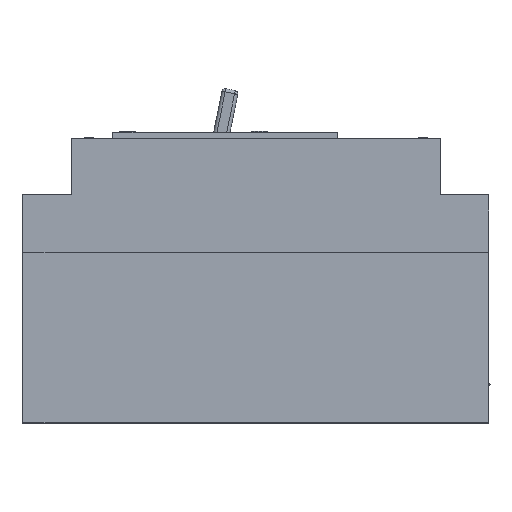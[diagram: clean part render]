
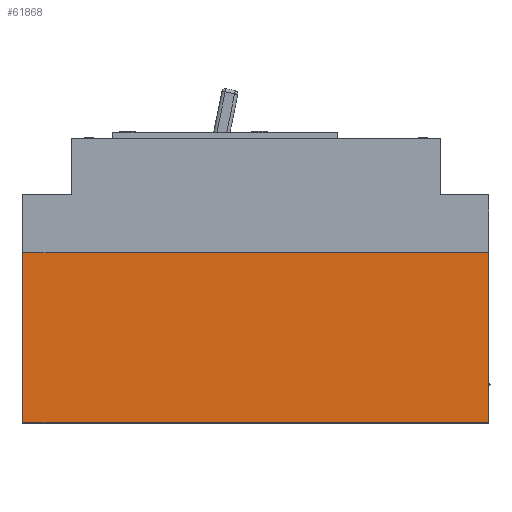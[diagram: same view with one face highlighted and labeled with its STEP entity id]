
A CAD part, top view. The second image highlights one B-rep face of the part: STEP entity #61868.
In plain terms, the highlighted planar face has unit normal (0, 0, 1).
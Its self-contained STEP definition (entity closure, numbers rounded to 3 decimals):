
#2431 = LINE ( 'NONE', #2441, #2440 ) ;
#2438 = CARTESIAN_POINT ( 'NONE',  ( 72.5, 53., 37.5 ) ) ;
#2439 = DIRECTION ( 'NONE',  ( 1., 0., 0. ) ) ;
#2440 = VECTOR ( 'NONE', #2439, 1000. ) ;
#2441 = CARTESIAN_POINT ( 'NONE',  ( -72.5, 53., 37.5 ) ) ;
#3309 = DIRECTION ( 'NONE',  ( 0., -1., 0. ) ) ;
#3310 = VECTOR ( 'NONE', #3309, 1000. ) ;
#3311 = CARTESIAN_POINT ( 'NONE',  ( 72.5, 53., 37.5 ) ) ;
#3312 = LINE ( 'NONE', #3311, #3310 ) ;
#3313 = CARTESIAN_POINT ( 'NONE',  ( 72.5, 0., 37.5 ) ) ;
#3314 = DIRECTION ( 'NONE',  ( 1., 0., 0. ) ) ;
#3315 = VECTOR ( 'NONE', #3314, 1000. ) ;
#3316 = CARTESIAN_POINT ( 'NONE',  ( -72.5, 0., 37.5 ) ) ;
#3317 = LINE ( 'NONE', #3316, #3315 ) ;
#3318 = DIRECTION ( 'NONE',  ( 0., -1., 0. ) ) ;
#3319 = DIRECTION ( 'NONE',  ( 0., 0., -1. ) ) ;
#3320 = CARTESIAN_POINT ( 'NONE',  ( -72.5, 53., 37.5 ) ) ;
#3321 = AXIS2_PLACEMENT_3D ( 'NONE', #3320, #3319, #3318 ) ;
#3322 = PLANE ( 'NONE',  #3321 ) ;
#3323 = FACE_OUTER_BOUND ( 'NONE', #61871, .T. ) ;
#59843 = VERTEX_POINT ( 'NONE', #80583 ) ;
#59845 = EDGE_CURVE ( 'NONE', #59846, #59843, #80577, .T. ) ;
#59846 = VERTEX_POINT ( 'NONE', #80570 ) ;
#61235 = EDGE_CURVE ( 'NONE', #59846, #61237, #2431, .T. ) ;
#61237 = VERTEX_POINT ( 'NONE', #2438 ) ;
#61868 = ADVANCED_FACE ( 'NONE', ( #3323 ), #3322, .F. ) ;
#61871 = EDGE_LOOP ( 'NONE', ( #61872, #61877, #61879, #61880 ) ) ;
#61872 = ORIENTED_EDGE ( 'NONE', *, *, #61874, .T. ) ;
#61874 = EDGE_CURVE ( 'NONE', #59843, #61876, #3317, .T. ) ;
#61876 = VERTEX_POINT ( 'NONE', #3313 ) ;
#61877 = ORIENTED_EDGE ( 'NONE', *, *, #61878, .F. ) ;
#61878 = EDGE_CURVE ( 'NONE', #61237, #61876, #3312, .T. ) ;
#61879 = ORIENTED_EDGE ( 'NONE', *, *, #61235, .F. ) ;
#61880 = ORIENTED_EDGE ( 'NONE', *, *, #59845, .T. ) ;
#80570 = CARTESIAN_POINT ( 'NONE',  ( -72.5, 53., 37.5 ) ) ;
#80572 = DIRECTION ( 'NONE',  ( 0., -1., 0. ) ) ;
#80574 = VECTOR ( 'NONE', #80572, 1000. ) ;
#80576 = CARTESIAN_POINT ( 'NONE',  ( -72.5, 53., 37.5 ) ) ;
#80577 = LINE ( 'NONE', #80576, #80574 ) ;
#80583 = CARTESIAN_POINT ( 'NONE',  ( -72.5, 0., 37.5 ) ) ;
